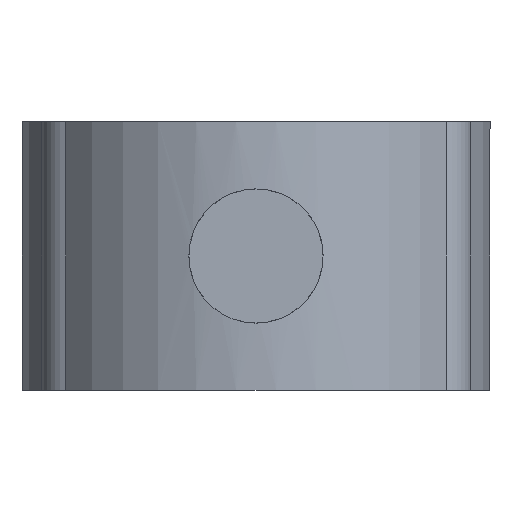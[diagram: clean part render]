
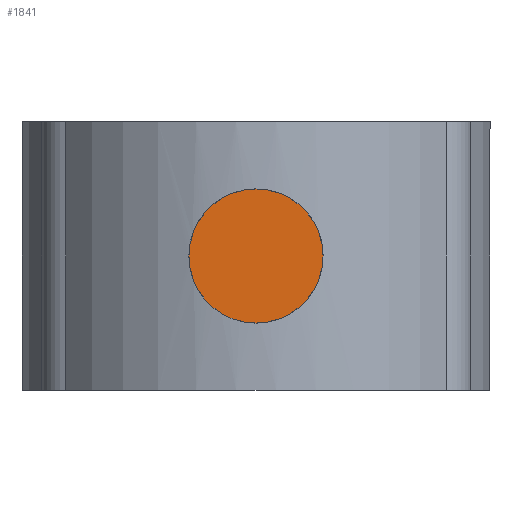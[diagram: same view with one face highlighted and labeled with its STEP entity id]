
A CAD part, front view. The second image highlights one B-rep face of the part: STEP entity #1841.
In plain terms, the highlighted planar face has unit normal (0, -1, 0).
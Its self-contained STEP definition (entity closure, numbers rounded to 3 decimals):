
#1772 = CYLINDRICAL_SURFACE('',#1773,2.);
#1773 = AXIS2_PLACEMENT_3D('',#1774,#1775,#1776);
#1774 = CARTESIAN_POINT('',(0.,-82.,0.));
#1775 = DIRECTION('',(0.,1.,0.));
#1776 = DIRECTION('',(1.,0.,-0.));
#1792 = VERTEX_POINT('',#1793);
#1793 = CARTESIAN_POINT('',(2.,-82.,0.));
#1814 = EDGE_CURVE('',#1792,#1792,#1815,.T.);
#1815 = SURFACE_CURVE('',#1816,(#1821,#1828),.PCURVE_S1.);
#1816 = CIRCLE('',#1817,2.);
#1817 = AXIS2_PLACEMENT_3D('',#1818,#1819,#1820);
#1818 = CARTESIAN_POINT('',(0.,-82.,0.));
#1819 = DIRECTION('',(0.,1.,0.));
#1820 = DIRECTION('',(1.,0.,-0.));
#1821 = PCURVE('',#1772,#1822);
#1822 = DEFINITIONAL_REPRESENTATION('',(#1823),#1827);
#1823 = LINE('',#1824,#1825);
#1824 = CARTESIAN_POINT('',(0.,0.));
#1825 = VECTOR('',#1826,1.);
#1826 = DIRECTION('',(1.,0.));
#1827 = ( GEOMETRIC_REPRESENTATION_CONTEXT(2) 
PARAMETRIC_REPRESENTATION_CONTEXT() REPRESENTATION_CONTEXT('2D SPACE',''
  ) );
#1828 = PCURVE('',#1829,#1834);
#1829 = PLANE('',#1830);
#1830 = AXIS2_PLACEMENT_3D('',#1831,#1832,#1833);
#1831 = CARTESIAN_POINT('',(0.,-82.,0.));
#1832 = DIRECTION('',(0.,1.,0.));
#1833 = DIRECTION('',(1.,0.,-0.));
#1834 = DEFINITIONAL_REPRESENTATION('',(#1835),#1839);
#1835 = CIRCLE('',#1836,2.);
#1836 = AXIS2_PLACEMENT_2D('',#1837,#1838);
#1837 = CARTESIAN_POINT('',(0.,0.));
#1838 = DIRECTION('',(1.,0.));
#1839 = ( GEOMETRIC_REPRESENTATION_CONTEXT(2) 
PARAMETRIC_REPRESENTATION_CONTEXT() REPRESENTATION_CONTEXT('2D SPACE',''
  ) );
#1841 = ADVANCED_FACE('',(#1842),#1829,.F.);
#1842 = FACE_BOUND('',#1843,.T.);
#1843 = EDGE_LOOP('',(#1844));
#1844 = ORIENTED_EDGE('',*,*,#1814,.F.);
